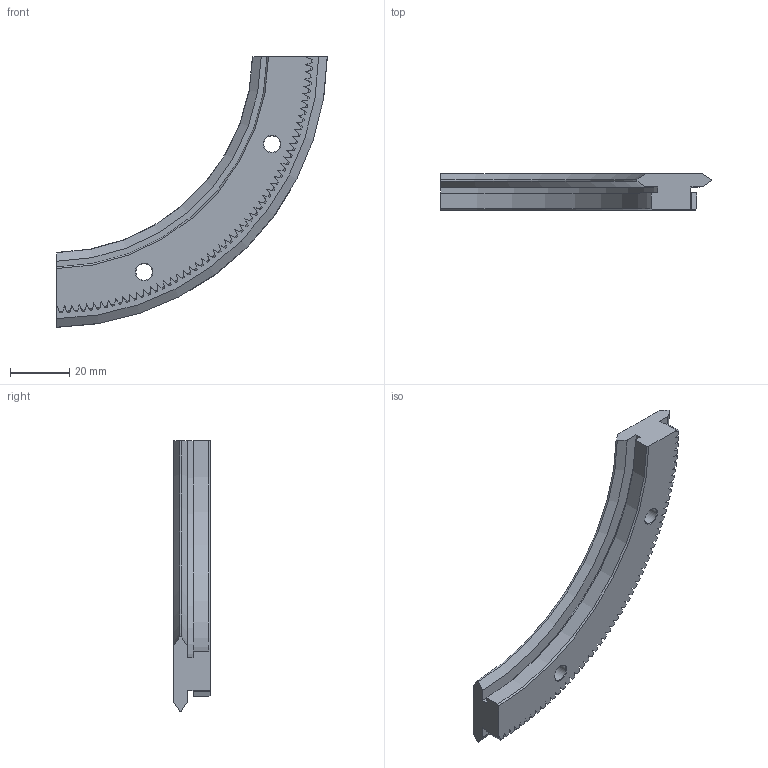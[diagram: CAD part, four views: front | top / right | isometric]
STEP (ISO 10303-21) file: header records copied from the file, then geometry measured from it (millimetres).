
FILE_DESCRIPTION( ( 'STEP AP203' ), '1' );
FILE_NAME( 'p:/temp/worker_46/temp/exporttempdir_4808_4_YtAxR/format_0/R25 159 R90 P.stp', '2021-08-30T04:11:40', ( 'License CC BY-ND 4.0' ), ( 'CADENAS' ), ' ', 'PARTsolutions', ' ' );
FILE_SCHEMA( ( 'CONFIG_CONTROL_DESIGN' ) );
Length unit declared in the file: millimetre
Products named in the file (1): _R25 159 R90 P
Bounding box: 91.09 x 12.25 x 91.09 mm (x, y, z)
Volume: 24392.8 mm3; surface area: 11079.1 mm2
Topology: 1 solids, 1 shells, 348 faces, 922 edges, 578 vertices
Faces by surface type: plane 226, cone 60, cylinder 60, torus 2
Full cylindrical faces by diameter (mm): 5.5 x2, 9 x2
Entity records: 10858 total; most frequent: CARTESIAN_POINT 2221, ORIENTED_EDGE 1832, DIRECTION 1786, EDGE_CURVE 916, AXIS2_PLACEMENT_3D 641, VERTEX_POINT 578, LINE 504, VECTOR 504
